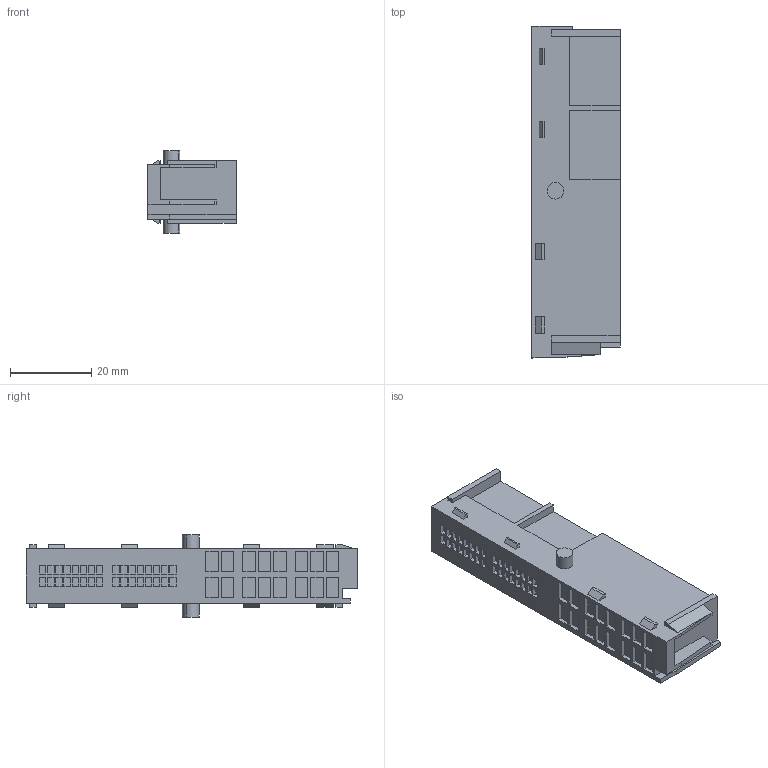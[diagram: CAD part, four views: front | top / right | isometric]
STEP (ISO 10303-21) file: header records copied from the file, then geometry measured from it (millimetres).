
FILE_DESCRIPTION(('CATIA V5 STEP Exchange','CAx-IF Rec.Pracs.--- Model Styling and Organization---1.2---2011-12-15'),'2;1');
FILE_NAME('N:\C-DAM_MyDesk\ENV\900093\6098-1122.stp','2014-12-03T02:19:19+00:00',('none'),('none'),'Version 5-6 Release 2012','CATIA V5 STEP AP214','none');
FILE_SCHEMA(('AUTOMOTIVE_DESIGN { 1 0 10303 214 1 1 1 1 }'));
Length unit declared in the file: millimetre
Products named in the file (1): 6098-1122
Bounding box: 21.7 x 81.6 x 20.2 mm (x, y, z)
Volume: 20775.3 mm3; surface area: 7610.6 mm2
Topology: 1 solids, 1 shells, 580 faces, 1414 edges, 942 vertices
Faces by surface type: plane 576, cylinder 4
Entity records: 15528 total; most frequent: ORIENTED_EDGE 2828, CARTESIAN_POINT 2710, DIRECTION 2120, EDGE_CURVE 1414, VECTOR 1406, LINE 1406, VERTEX_POINT 942, EDGE_LOOP 686
